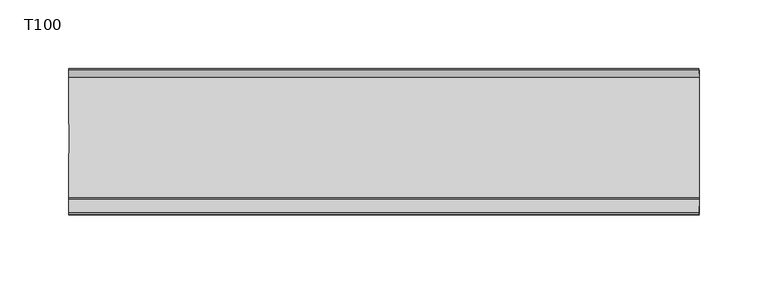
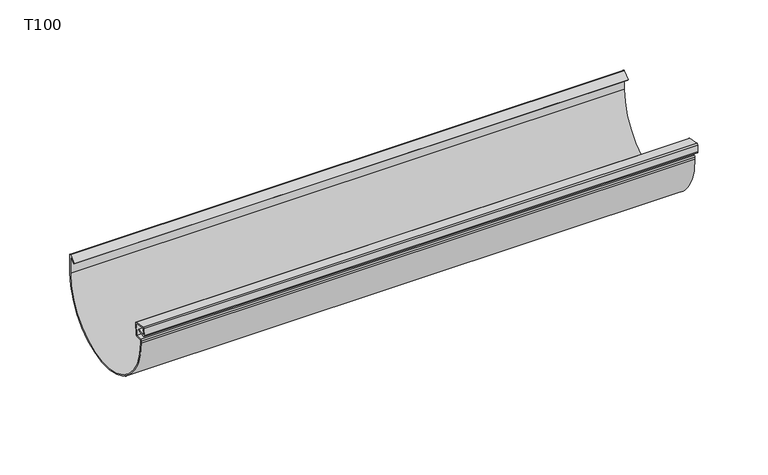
"""IFC4 building model written with IfcOpenShell, lengths in millimetres: proxy geometry, GROVIK_Gutter_Straight : T100."""

from ifc_helpers import new_model, si_unit, point, frame, frame_2d, origin, place, context, project, spatial, polyline, circle_curve, trimmed, segment, composite_curve, outline, extrude, source, transform, mapped, element, save


def t100_2323cbb2(model_context):
    return source(origin(), model_context, "Body", "SweptSolid", [
        extrude(outline(composite_curve([segment(polyline([(95.6785725, 12.9222473), (94.8220658, 3.1323306), (104.7816977, 1.3761787), (105.2998033, 7.2981526), (98.3413035, 6.0711814), (98.1850202, 6.9575084), (105.0151773, 8.1618494)]), True, "CONTINUOUS"), segment(trimmed(circle_curve(frame_2d((105.1888255, 7.1770416)), 1.0), [point((105.0151773, 8.1618494))], [point((106.1850202, 7.0898858))], False, "CARTESIAN"), True, "CONTINUOUS"), segment(polyline([(106.1850202, 7.0898858), (105.6885136, 1.4147892)]), True, "CONTINUOUS"), segment(trimmed(circle_curve(frame_2d((104.6923189, 1.501945)), 1.0), [point((105.6885136, 1.4147892))], [point((104.6051631, 0.5057503))], False, "CARTESIAN"), True, "CONTINUOUS"), segment(polyline([(104.6051631, 0.5057503), (94.7570856, 2.242232)]), True, "CONTINUOUS"), segment(trimmed(circle_curve(frame_2d((94.9307338, 3.2270397)), 1.0), [point((94.7570856, 2.242232))], [point((93.9345391, 3.3141955))], False, "CARTESIAN"), True, "CONTINUOUS"), segment(polyline([(93.9345391, 3.3141955), (94.7746841, 12.9170968)]), True, "CONTINUOUS"), segment(trimmed(circle_curve(frame_2d((95.683723, 12.9170968)), 0.909039), [point((94.7746841, 12.9170968))], [point((95.683723, 13.8261357))], False, "CARTESIAN"), True, "CONTINUOUS"), segment(polyline([(95.683723, 13.8261357), (100.9, 14.2825008), (100.9, 16.3578028)]), True, "CONTINUOUS"), segment(trimmed(circle_curve(frame_2d((50.9, 16.3578028)), 50.0), [point((100.9, 16.3578028))], [point((0.9, 16.3578028))], True, "CARTESIAN"), True, "CONTINUOUS"), segment(polyline([(0.9, 16.3578028), (0.9, 1.3578028), (5.6494755, 5.343086), (6.2279844, 4.6536459), (0.8213938, 0.1169778)]), True, "CONTINUOUS"), segment(trimmed(circle_curve(frame_2d((0.5, 0.5000001)), 0.5), [point((0.8213938, 0.1169778))], [point((0.0, 0.5000001))], False, "CARTESIAN"), True, "CONTINUOUS"), segment(polyline([(0.0, 0.5000001), (0.0, 16.3578028)]), True, "CONTINUOUS"), segment(trimmed(circle_curve(frame_2d((50.9, 16.3578028)), 50.9), [point((0.0, 16.3578028))], [point((101.8, 16.3578028))], False, "CARTESIAN"), True, "CONTINUOUS"), segment(polyline([(101.8, 16.3578028), (101.8, 14.374134)]), True, "CONTINUOUS"), segment(trimmed(circle_curve(frame_2d((100.8, 14.374134)), 1.0), [point((101.8, 14.374134))], [point((100.8871557, 13.3779393))], False, "CARTESIAN"), True, "CONTINUOUS"), segment(polyline([(100.8871557, 13.3779393), (95.6785725, 12.9222473)]), True, "CONTINUOUS")], self_intersect=False)), frame((45.0, 0.0, 0.0), z_axis=(0.9999995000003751, 0.0, 0.00099999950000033), x_axis=(0.0, -1.0, 0.0)), (0.0, 0.0, 1.0), 457.184942),
    ])


if __name__ == "__main__":
    model = new_model("IFC4")
    model_context = context("Model", 3, world=origin())
    ifc_project = project(units=[si_unit("LENGTHUNIT", "METRE", prefix="MILLI")], contexts=[model_context])
    site = spatial("IfcSite", under=ifc_project)
    building = spatial("IfcBuilding", under=site)
    placement = place(None, origin())
    t100_shape = t100_2323cbb2(model_context)
    element("IfcBuildingElementProxy", 1, Name="GROVIK_Gutter_Straight : T100", ObjectType="GROVIK_Gutter_Straight : T100", at=placement, inside=building, context=model_context, shape_type="MappedRepresentation", body=[
        mapped(t100_shape, transform((0.0, 0.0, 0.0), x_axis=(1.0, 0.0, 0.0), y_axis=(0.0, 1.0, 0.0), z_axis=(0.0, 0.0, 1.0))),
    ])
    save(model, "model.ifc")
